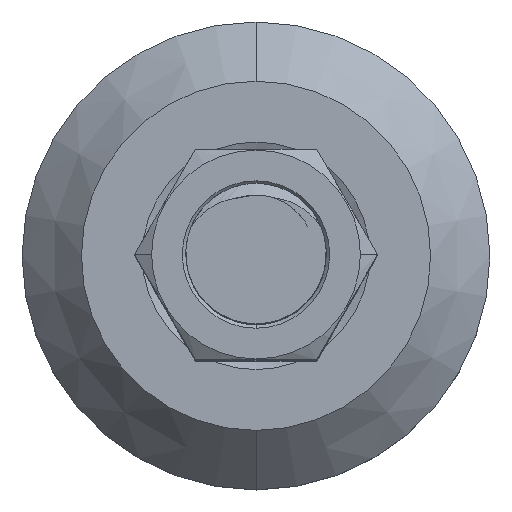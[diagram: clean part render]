
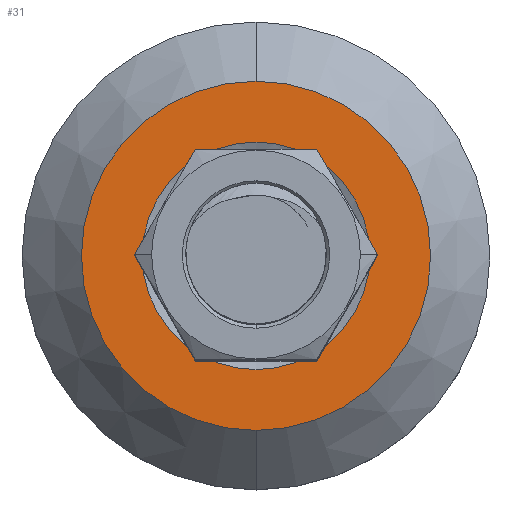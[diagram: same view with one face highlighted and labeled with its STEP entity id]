
A CAD part, top view. The second image highlights one B-rep face of the part: STEP entity #31.
In plain terms, the highlighted planar face has unit normal (0, 0, 1).
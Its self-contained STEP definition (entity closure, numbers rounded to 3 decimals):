
#31 = ADVANCED_FACE ( 'NONE', ( #5715, #10628 ), #11001, .T. ) ;
#211 = AXIS2_PLACEMENT_3D ( 'NONE', #3586, #5461, #11938 ) ;
#1088 = ORIENTED_EDGE ( 'NONE', *, *, #9711, .T. ) ;
#1571 = CARTESIAN_POINT ( 'NONE',  ( 0., 0., 12. ) ) ;
#2015 = ORIENTED_EDGE ( 'NONE', *, *, #10011, .T. ) ;
#2067 = VERTEX_POINT ( 'NONE', #5578 ) ;
#2496 = DIRECTION ( 'NONE',  ( 1., 0., 0. ) ) ;
#2736 = VERTEX_POINT ( 'NONE', #9961 ) ;
#2959 = CIRCLE ( 'NONE', #3615, 9.728 ) ;
#3586 = CARTESIAN_POINT ( 'NONE',  ( -20.24, -20.24, 12. ) ) ;
#3615 = AXIS2_PLACEMENT_3D ( 'NONE', #10439, #4901, #11372 ) ;
#4124 = ORIENTED_EDGE ( 'NONE', *, *, #9343, .T. ) ;
#4413 = CARTESIAN_POINT ( 'NONE',  ( 0., 0., 12. ) ) ;
#4623 = DIRECTION ( 'NONE',  ( 0., 0., -1. ) ) ;
#4702 = AXIS2_PLACEMENT_3D ( 'NONE', #4413, #10903, #5366 ) ;
#4901 = DIRECTION ( 'NONE',  ( 0., 0., -1. ) ) ;
#5366 = DIRECTION ( 'NONE',  ( 1., 0., 0. ) ) ;
#5461 = DIRECTION ( 'NONE',  ( 0., 0., 1. ) ) ;
#5578 = CARTESIAN_POINT ( 'NONE',  ( 0., 14.929, 12. ) ) ;
#5605 = EDGE_LOOP ( 'NONE', ( #5692, #1088 ) ) ;
#5626 = VERTEX_POINT ( 'NONE', #12023 ) ;
#5692 = ORIENTED_EDGE ( 'NONE', *, *, #7218, .T. ) ;
#5715 = FACE_BOUND ( 'NONE', #5973, .T. ) ;
#5772 = VERTEX_POINT ( 'NONE', #10342 ) ;
#5973 = EDGE_LOOP ( 'NONE', ( #4124, #2015 ) ) ;
#6019 = CIRCLE ( 'NONE', #4702, 14.929 ) ;
#7218 = EDGE_CURVE ( 'NONE', #2067, #5772, #6019, .T. ) ;
#8080 = DIRECTION ( 'NONE',  ( 0., 0., 1. ) ) ;
#8401 = AXIS2_PLACEMENT_3D ( 'NONE', #10187, #4623, #11122 ) ;
#8642 = CIRCLE ( 'NONE', #11697, 14.929 ) ;
#9343 = EDGE_CURVE ( 'NONE', #5626, #2736, #2959, .T. ) ;
#9711 = EDGE_CURVE ( 'NONE', #5772, #2067, #8642, .T. ) ;
#9961 = CARTESIAN_POINT ( 'NONE',  ( -9.728, 0., 12. ) ) ;
#10011 = EDGE_CURVE ( 'NONE', #2736, #5626, #10277, .T. ) ;
#10187 = CARTESIAN_POINT ( 'NONE',  ( 0., 0., 12. ) ) ;
#10277 = CIRCLE ( 'NONE', #8401, 9.728 ) ;
#10342 = CARTESIAN_POINT ( 'NONE',  ( 0., -14.929, 12. ) ) ;
#10439 = CARTESIAN_POINT ( 'NONE',  ( 0., 0., 12. ) ) ;
#10628 = FACE_OUTER_BOUND ( 'NONE', #5605, .T. ) ;
#10903 = DIRECTION ( 'NONE',  ( 0., 0., 1. ) ) ;
#11001 = PLANE ( 'NONE',  #211 ) ;
#11122 = DIRECTION ( 'NONE',  ( 1., 0., 0. ) ) ;
#11372 = DIRECTION ( 'NONE',  ( 1., 0., 0. ) ) ;
#11697 = AXIS2_PLACEMENT_3D ( 'NONE', #1571, #8080, #2496 ) ;
#11938 = DIRECTION ( 'NONE',  ( 1., 0., 0. ) ) ;
#12023 = CARTESIAN_POINT ( 'NONE',  ( 9.728, 0., 12. ) ) ;
